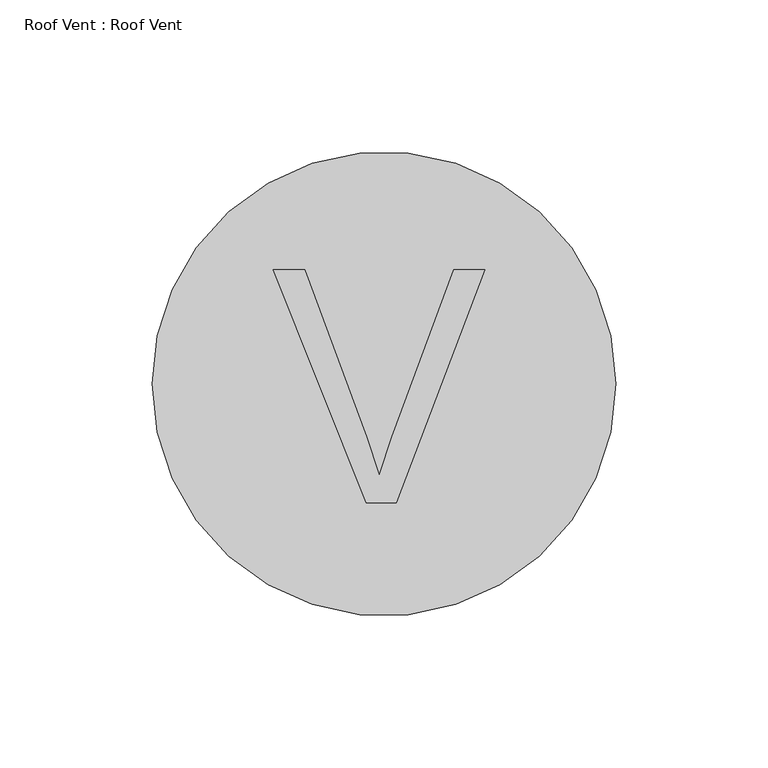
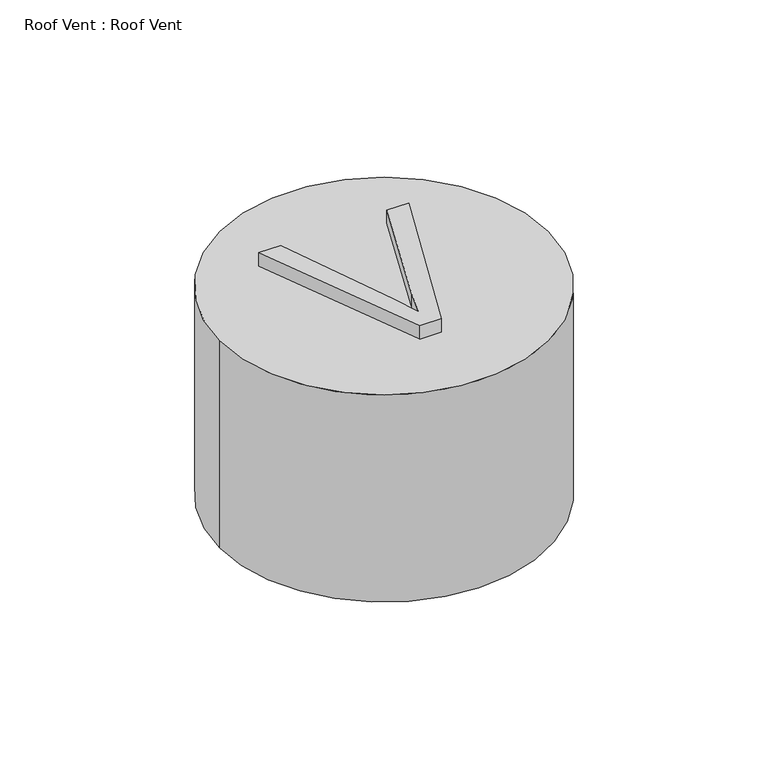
"""IFC4 building model written with IfcOpenShell, lengths in millimetres: proxy geometry, Roof Vent : Roof Vent."""

from ifc_helpers import new_model, si_unit, point, origin, origin_with_axes, origin_2d, place, context, project, spatial, polyline, circle_curve, trimmed, segment, composite_curve, outline, extrude, source, transform, mapped, element, save


def roof_vent_roof_vent_69e8556b(model_context):
    return source(origin(), model_context, "Body", "SweptSolid", [
        extrude(outline(polyline([(-5.8651094, -38.9800096), (-36.3272102, 37.5676987), (-26.085964, 37.5676987), (-5.6969138, -17.5817855), (-1.5667762, -30.009575), (2.5072962, -17.5817855), (22.9524116, 37.5676987), (33.1936578, 37.5676987), (4.021057, -38.9800096), (-5.8651094, -38.9800096)])), origin_with_axes(), (0.0, 0.0, 1.0), 107.95),
        extrude(outline(composite_curve([segment(trimmed(circle_curve(origin_2d(), 76.2), [point((-76.2, 0.0))], [point((76.2, 0.0))], False, "CARTESIAN"), True, "CONTINUOUS"), segment(trimmed(circle_curve(origin_2d(), 76.2), [point((76.2, 0.0))], [point((-76.2, 0.0))], False, "CARTESIAN"), True, "CONTINUOUS")], self_intersect=False)), origin_with_axes(), (0.0, 0.0, 1.0), 101.6),
    ])


if __name__ == "__main__":
    model = new_model("IFC4")
    model_context = context("Model", 3, world=origin())
    ifc_project = project(units=[si_unit("LENGTHUNIT", "METRE", prefix="MILLI")], contexts=[model_context])
    site = spatial("IfcSite", under=ifc_project)
    building = spatial("IfcBuilding", under=site)
    placement = place(None, origin())
    roof_vent_roof_vent_shape = roof_vent_roof_vent_69e8556b(model_context)
    element("IfcBuildingElementProxy", 1, Name="Roof Vent : Roof Vent", ObjectType="Roof Vent : Roof Vent", at=placement, inside=building, context=model_context, shape_type="MappedRepresentation", body=[
        mapped(roof_vent_roof_vent_shape, transform((0.0, 0.0, 0.0), x_axis=(1.0, 0.0, 0.0), y_axis=(0.0, 1.0, 0.0), z_axis=(0.0, 0.0, 1.0))),
    ])
    save(model, "model.ifc")
